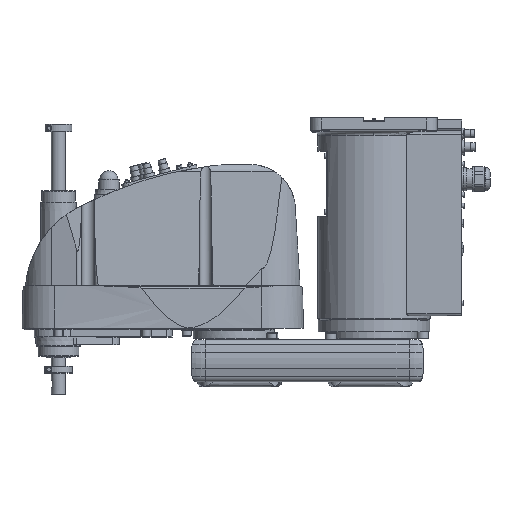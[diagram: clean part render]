
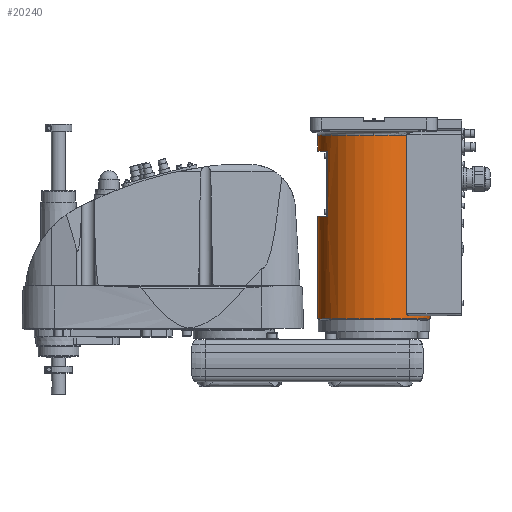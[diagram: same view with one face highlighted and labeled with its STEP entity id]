
A CAD part, top view. The second image highlights one B-rep face of the part: STEP entity #20240.
In plain terms, the highlighted cylindrical face has radius 80 mm (diameter 160 mm), a partial arc.
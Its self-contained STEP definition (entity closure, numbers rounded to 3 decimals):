
#9288 = VERTEX_POINT( '', #25667 );
#10212 = VERTEX_POINT( '', #26690 );
#10232 = VERTEX_POINT( '', #26712 );
#11950 = VERTEX_POINT( '', #28621 );
#12078 = VERTEX_POINT( '', #28770 );
#13736 = EDGE_CURVE( '', #13860, #19802, #30618, .T. );
#13860 = VERTEX_POINT( '', #30760 );
#14956 = VERTEX_POINT( '', #31997 );
#15124 = EDGE_CURVE( '', #11950, #10212, #32180, .T. );
#15706 = EDGE_CURVE( '', #9288, #11950, #32820, .T. );
#15890 = EDGE_CURVE( '', #18714, #17778, #33019, .T. );
#16836 = VERTEX_POINT( '', #34073 );
#16976 = EDGE_CURVE( '', #14956, #18714, #34225, .T. );
#17052 = EDGE_CURVE( '', #19802, #21098, #34306, .T. );
#17414 = EDGE_CURVE( '', #10232, #10212, #34714, .T. );
#17778 = VERTEX_POINT( '', #35121 );
#18714 = VERTEX_POINT( '', #36178 );
#19802 = VERTEX_POINT( '', #37384 );
#20240 = ADVANCED_FACE( '', ( #37871 ), #37872, .T. );
#21098 = VERTEX_POINT( '', #38846 );
#21544 = EDGE_CURVE( '', #12078, #13860, #39339, .T. );
#21766 = EDGE_CURVE( '', #16836, #14956, #39586, .T. );
#22008 = EDGE_CURVE( '', #17778, #12078, #39850, .T. );
#23128 = EDGE_CURVE( '', #16836, #10232, #41094, .T. );
#24136 = EDGE_CURVE( '', #21098, #9288, #42229, .T. );
#25667 = CARTESIAN_POINT( '', ( 50.557, 34.5, 62. ) );
#26690 = CARTESIAN_POINT( '', ( 46.637, 291.5, 65. ) );
#26712 = CARTESIAN_POINT( '', ( 0., 291.5, 80. ) );
#28621 = CARTESIAN_POINT( '', ( 46.637, 37.5, 65. ) );
#28770 = CARTESIAN_POINT( '', ( -80., 176., 0. ) );
#30618 = CIRCLE( '', #51985, 80. );
#30760 = CARTESIAN_POINT( '', ( -80., 30., 0. ) );
#31997 = CARTESIAN_POINT( '', ( -80., 269., 0. ) );
#32180 = LINE( '', #54520, #54521 );
#32820 = B_SPLINE_CURVE_WITH_KNOTS( '', 3, ( #55612, #55613, #55614, #55615, #55616, #55617, #55618, #55619, #55620, #55621, #55622, #55623, #55624, #55625, #55626, #55627 ), .UNSPECIFIED., .F., .F., ( 4, 2, 2, 2, 2, 2, 2, 4 ), ( -6.06, -5.11, -4.16, -2.26, -1.695, -1.13, -0.565, 0. ), .UNSPECIFIED. );
#33019 = LINE( '', #55967, #55968 );
#34073 = CARTESIAN_POINT( '', ( -80., 291.5, 0. ) );
#34225 = CIRCLE( '', #57804, 80. );
#34306 = LINE( '', #57952, #57953 );
#34714 = CIRCLE( '', #58583, 80. );
#35121 = CARTESIAN_POINT( '', ( -66., 176., 45.211 ) );
#36178 = CARTESIAN_POINT( '', ( -66., 269., 45.211 ) );
#37384 = CARTESIAN_POINT( '', ( 80., 30., 0. ) );
#37871 = FACE_OUTER_BOUND( '', #63603, .T. );
#37872 = CYLINDRICAL_SURFACE( '', #63604, 80. );
#38846 = CARTESIAN_POINT( '', ( 80., 34.5, 0. ) );
#39339 = LINE( '', #65842, #65843 );
#39586 = LINE( '', #66205, #66206 );
#39850 = CIRCLE( '', #66561, 80. );
#41094 = CIRCLE( '', #68513, 80. );
#42229 = CIRCLE( '', #70153, 80. );
#51985 = AXIS2_PLACEMENT_3D( '', #77627, #77628, #77629 );
#54520 = CARTESIAN_POINT( '', ( 46.637, 164.5, 65. ) );
#54521 = VECTOR( '', #79408, 1. );
#55612 = CARTESIAN_POINT( '', ( 50.557, 34.5, 62. ) );
#55613 = CARTESIAN_POINT( '', ( 50.312, 34.5, 62.2 ) );
#55614 = CARTESIAN_POINT( '', ( 50.054, 34.52, 62.407 ) );
#55615 = CARTESIAN_POINT( '', ( 49.533, 34.607, 62.822 ) );
#55616 = CARTESIAN_POINT( '', ( 49.269, 34.674, 63.029 ) );
#55617 = CARTESIAN_POINT( '', ( 48.491, 34.945, 63.632 ) );
#55618 = CARTESIAN_POINT( '', ( 47.991, 35.221, 64.009 ) );
#55619 = CARTESIAN_POINT( '', ( 47.455, 35.701, 64.405 ) );
#55620 = CARTESIAN_POINT( '', ( 47.333, 35.827, 64.495 ) );
#55621 = CARTESIAN_POINT( '', ( 47.106, 36.105, 64.661 ) );
#55622 = CARTESIAN_POINT( '', ( 47.002, 36.258, 64.736 ) );
#55623 = CARTESIAN_POINT( '', ( 46.828, 36.585, 64.863 ) );
#55624 = CARTESIAN_POINT( '', ( 46.758, 36.761, 64.913 ) );
#55625 = CARTESIAN_POINT( '', ( 46.662, 37.124, 64.982 ) );
#55626 = CARTESIAN_POINT( '', ( 46.637, 37.312, 65. ) );
#55627 = CARTESIAN_POINT( '', ( 46.637, 37.5, 65. ) );
#55967 = CARTESIAN_POINT( '', ( -66., 222.5, 45.211 ) );
#55968 = VECTOR( '', #80260, 1. );
#57804 = AXIS2_PLACEMENT_3D( '', #81706, #81707, #81708 );
#57952 = CARTESIAN_POINT( '', ( 80., 160.75, 0. ) );
#57953 = VECTOR( '', #81783, 1. );
#58583 = AXIS2_PLACEMENT_3D( '', #82289, #82290, #82291 );
#63603 = EDGE_LOOP( '', ( #85846, #85847, #85848, #85849, #85850, #85851, #85852, #85853, #85854, #85855, #85856, #85857 ) );
#63604 = AXIS2_PLACEMENT_3D( '', #85858, #85859, #85860 );
#65842 = CARTESIAN_POINT( '', ( -80., 160.75, 0. ) );
#65843 = VECTOR( '', #87618, 1. );
#66205 = CARTESIAN_POINT( '', ( -80., 160.75, 0. ) );
#66206 = VECTOR( '', #87905, 1. );
#66561 = AXIS2_PLACEMENT_3D( '', #88189, #88190, #88191 );
#68513 = AXIS2_PLACEMENT_3D( '', #89608, #89609, #89610 );
#70153 = AXIS2_PLACEMENT_3D( '', #91077, #91078, #91079 );
#77627 = CARTESIAN_POINT( '', ( 0., 30., 0. ) );
#77628 = DIRECTION( '', ( 0., 1., 0. ) );
#77629 = DIRECTION( '', ( 1., 0., 0. ) );
#79408 = DIRECTION( '', ( 0., 1., 0. ) );
#80260 = DIRECTION( '', ( 0., -1., 0. ) );
#81706 = CARTESIAN_POINT( '', ( 0., 269., 0. ) );
#81707 = DIRECTION( '', ( 0., 1., 0. ) );
#81708 = DIRECTION( '', ( 1., 0., 0. ) );
#81783 = DIRECTION( '', ( 0., 1., 0. ) );
#82289 = CARTESIAN_POINT( '', ( 0., 291.5, 0. ) );
#82290 = DIRECTION( '', ( 0., 1., 0. ) );
#82291 = DIRECTION( '', ( 1., 0., 0. ) );
#85846 = ORIENTED_EDGE( '', *, *, #17052, .T. );
#85847 = ORIENTED_EDGE( '', *, *, #24136, .T. );
#85848 = ORIENTED_EDGE( '', *, *, #15706, .T. );
#85849 = ORIENTED_EDGE( '', *, *, #15124, .T. );
#85850 = ORIENTED_EDGE( '', *, *, #17414, .F. );
#85851 = ORIENTED_EDGE( '', *, *, #23128, .F. );
#85852 = ORIENTED_EDGE( '', *, *, #21766, .T. );
#85853 = ORIENTED_EDGE( '', *, *, #16976, .T. );
#85854 = ORIENTED_EDGE( '', *, *, #15890, .T. );
#85855 = ORIENTED_EDGE( '', *, *, #22008, .T. );
#85856 = ORIENTED_EDGE( '', *, *, #21544, .T. );
#85857 = ORIENTED_EDGE( '', *, *, #13736, .T. );
#85858 = CARTESIAN_POINT( '', ( 0., 160.75, 0. ) );
#85859 = DIRECTION( '', ( 0., -1., 0. ) );
#85860 = DIRECTION( '', ( 1., 0., 0. ) );
#87618 = DIRECTION( '', ( 0., -1., 0. ) );
#87905 = DIRECTION( '', ( 0., -1., 0. ) );
#88189 = CARTESIAN_POINT( '', ( 0., 176., 0. ) );
#88190 = DIRECTION( '', ( 0., -1., 0. ) );
#88191 = DIRECTION( '', ( 1., 0., 0. ) );
#89608 = CARTESIAN_POINT( '', ( 0., 291.5, 0. ) );
#89609 = DIRECTION( '', ( 0., 1., 0. ) );
#89610 = DIRECTION( '', ( 1., 0., 0. ) );
#91077 = CARTESIAN_POINT( '', ( 0., 34.5, 0. ) );
#91078 = DIRECTION( '', ( 0., -1., 0. ) );
#91079 = DIRECTION( '', ( 1., 0., 0. ) );
